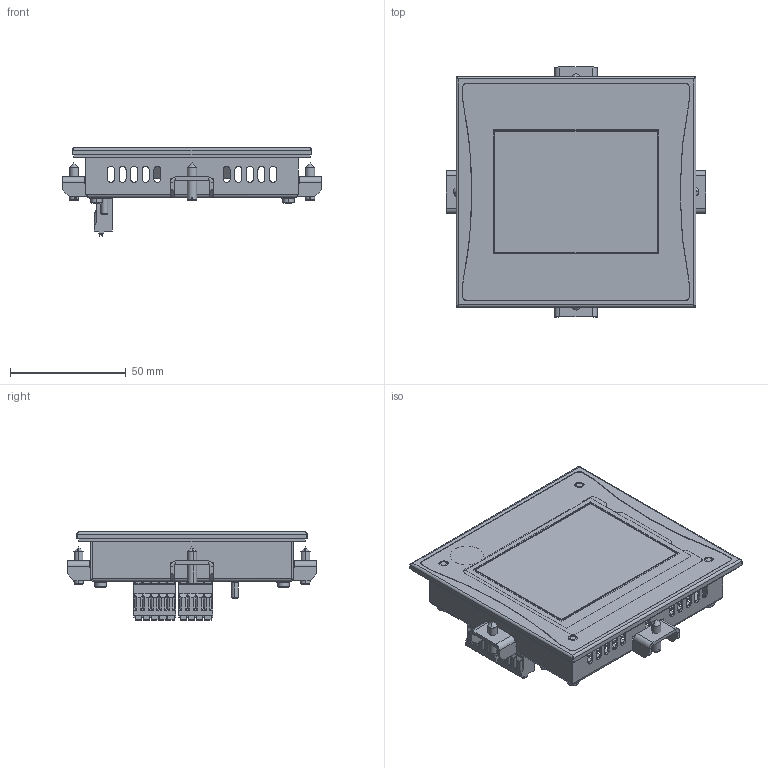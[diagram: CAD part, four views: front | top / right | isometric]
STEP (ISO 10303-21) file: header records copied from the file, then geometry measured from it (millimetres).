
FILE_DESCRIPTION (( 'STEP AP214' ), '1' );
FILE_NAME ('ETT312 01-230-312.STEP', '2017-07-13T09:27:40', ( 'SIGMATEK GmbH & Co KG' ), ( 'SIGMATEK GmbH & Co KG' ), 'SwSTEP 2.0', 'SolidWorks 2017', '' );
FILE_SCHEMA (( 'AUTOMOTIVE_DESIGN' ));
Length unit declared in the file: millimetre
Products named in the file (19): fh_m2_5_6; ZM1622-3877-11 Front ETT312; Dummy_Kleber; ETT312 01-230-312; ZM1608-3878-10 Gehäuse; fh_m3_8; 4110262173 5pol._Federkraftstecker_fmc_1.5-5-st-3.5_1952296; 4110262172 4pol.Federkraftstecker f.2reih 1705390; Scheibe EN ISO 7089 - 2,5 - 200HV; Gewindestift ISO 7434 - M4 x 16 - 14H - A2F; ZM1614-3863-10; 3030301107 Flachkopfschraube ISO 7045 (DIN 7985) M2,5 x4-Z7 - 4.8-H-A2F-Torx; 3030262092 Abstandsbolzen ABM02,505II8 Ms-vernickel; Abstandsbolzen GBM2,504IA8 St-verzinkt; ZM1608-3888-11 Neutrale Folie; 7227771128 - TM035KBH02_V1.41_ohne oben; ZM1622-3877-12 ETT312; Zexxxx-3876-x1
Assembly tree (39 placements, depth 3):
  ETT312 01-230-312
    ZM1622-3877-12 ETT312
      ZM1622-3877-11 Front ETT312
      fh_m2_5_6  x4
      Zexxxx-3876-x1
    7227771128 - TM035KBH02_V1.41_ohne oben
    ZM1608-3888-11 Neutrale Folie
    Abstandsbolzen GBM2,504IA8 St-verzinkt  x4
    3030262092 Abstandsbolzen ABM02,505II8 Ms-vernickel  x4
    3030301107 Flachkopfschraube ISO 7045 (DIN 7985) M2,5 x4-Z7 - 4.8-H-A2F-Torx  x4
    ZM1614-3863-10  x4
    Gewindestift ISO 7434 - M4 x 16 - 14H - A2F  x4
    Scheibe EN ISO 7089 - 2,5 - 200HV  x4
    4110262172 4pol.Federkraftstecker f.2reih 1705390
    4110262173 5pol._Federkraftstecker_fmc_1.5-5-st-3.5_1952296
    ZM1608-3878-10 Gehäuse
      fh_m3_8
      ZM1608-3878-10 Gehäuse
    Dummy_Kleber
Bounding box: 112 x 108 x 38.1 mm (x, y, z)
Volume: 55575.6 mm3; surface area: 78536.2 mm2
Topology: 46 solids, 46 shells, 2145 faces, 5639 edges, 3624 vertices
Faces by surface type: plane 1199, cylinder 737, cone 131, bspline 70, torus 8
Entity records: 55223 total; most frequent: CARTESIAN_POINT 10734, ORIENTED_EDGE 8666, DIRECTION 8556, EDGE_CURVE 4333, VECTOR 2956, LINE 2956, VERTEX_POINT 2818, AXIS2_PLACEMENT_3D 2800
